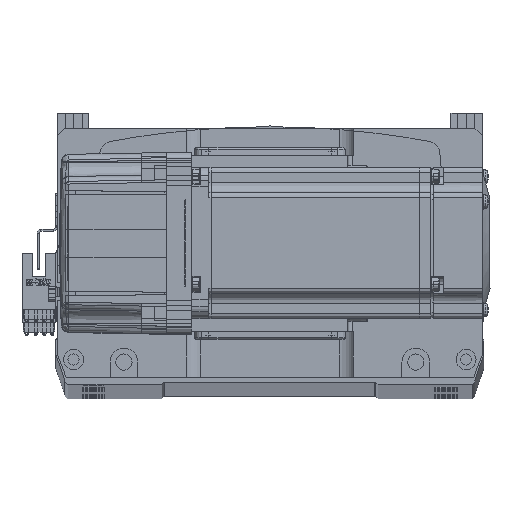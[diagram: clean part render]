
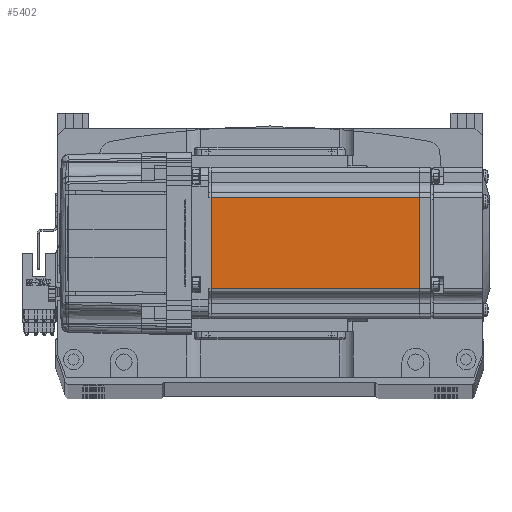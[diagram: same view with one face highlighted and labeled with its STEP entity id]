
A CAD part, top view. The second image highlights one B-rep face of the part: STEP entity #5402.
In plain terms, the highlighted planar face has unit normal (0, 0, 1) as drawn and (0, -1, 0) by its records, which use the part's own axes.
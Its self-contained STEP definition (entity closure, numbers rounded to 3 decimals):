
#2337 = ORIENTED_EDGE ( 'NONE', *, *, #6410, .T. ) ;
#3568 = EDGE_CURVE ( 'NONE', #66323, #30736, #57733, .T. ) ;
#3789 = FACE_OUTER_BOUND ( 'NONE', #68780, .T. ) ;
#5402 = ADVANCED_FACE ( 'NONE', ( #3789 ), #56009, .T. ) ;
#6410 = EDGE_CURVE ( 'NONE', #30736, #56596, #29588, .T. ) ;
#11265 = VECTOR ( 'NONE', #13126, 1000. ) ;
#13126 = DIRECTION ( 'NONE',  ( 0., 0., 1. ) ) ;
#16589 = CARTESIAN_POINT ( 'NONE',  ( -6.5, -30., -25. ) ) ;
#17348 = CARTESIAN_POINT ( 'NONE',  ( -6.5, -30., -18. ) ) ;
#18360 = VECTOR ( 'NONE', #35703, 1000. ) ;
#19679 = VECTOR ( 'NONE', #24764, 1000. ) ;
#20785 = CARTESIAN_POINT ( 'NONE',  ( -90.45, -30., 18. ) ) ;
#23694 = CARTESIAN_POINT ( 'NONE',  ( -7.75, -30., -25. ) ) ;
#24764 = DIRECTION ( 'NONE',  ( 1., 0., 0. ) ) ;
#25862 = LINE ( 'NONE', #23694, #11265 ) ;
#26521 = ORIENTED_EDGE ( 'NONE', *, *, #46468, .T. ) ;
#26639 = CARTESIAN_POINT ( 'NONE',  ( -7.75, -30., -18. ) ) ;
#27259 = CARTESIAN_POINT ( 'NONE',  ( -90.45, -30., -18. ) ) ;
#29588 = LINE ( 'NONE', #51728, #18360 ) ;
#30736 = VERTEX_POINT ( 'NONE', #20785 ) ;
#31869 = LINE ( 'NONE', #17348, #19679 ) ;
#35703 = DIRECTION ( 'NONE',  ( 0., 0., -1. ) ) ;
#43923 = DIRECTION ( 'NONE',  ( 0., -1., 0. ) ) ;
#46059 = VERTEX_POINT ( 'NONE', #26639 ) ;
#46468 = EDGE_CURVE ( 'NONE', #46059, #66323, #25862, .T. ) ;
#47253 = CARTESIAN_POINT ( 'NONE',  ( -6.5, -30., 18. ) ) ;
#47294 = VECTOR ( 'NONE', #53536, 1000. ) ;
#49785 = CARTESIAN_POINT ( 'NONE',  ( -7.75, -30., 18. ) ) ;
#50203 = DIRECTION ( 'NONE',  ( 0., 0., -1. ) ) ;
#51728 = CARTESIAN_POINT ( 'NONE',  ( -90.45, -30., -25. ) ) ;
#53536 = DIRECTION ( 'NONE',  ( -1., 0., 0. ) ) ;
#56009 = PLANE ( 'NONE',  #59194 ) ;
#56596 = VERTEX_POINT ( 'NONE', #27259 ) ;
#57733 = LINE ( 'NONE', #47253, #47294 ) ;
#59113 = ORIENTED_EDGE ( 'NONE', *, *, #3568, .T. ) ;
#59194 = AXIS2_PLACEMENT_3D ( 'NONE', #16589, #43923, #50203 ) ;
#66323 = VERTEX_POINT ( 'NONE', #49785 ) ;
#66492 = EDGE_CURVE ( 'NONE', #56596, #46059, #31869, .T. ) ;
#68780 = EDGE_LOOP ( 'NONE', ( #26521, #59113, #2337, #69408 ) ) ;
#69408 = ORIENTED_EDGE ( 'NONE', *, *, #66492, .T. ) ;
